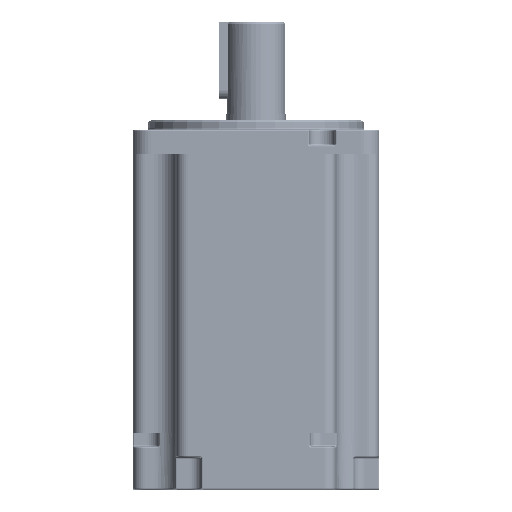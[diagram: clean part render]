
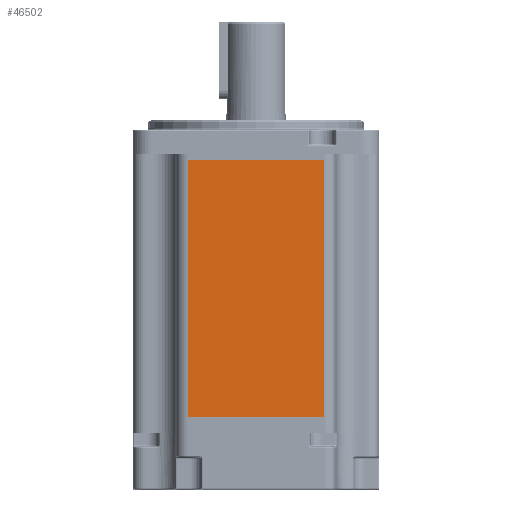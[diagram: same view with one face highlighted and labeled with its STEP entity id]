
A CAD part, top view. The second image highlights one B-rep face of the part: STEP entity #46502.
In plain terms, the highlighted planar face has unit normal (0, 0, 1) as drawn and (-1, 0, 0) by its records, which use the part's own axes.
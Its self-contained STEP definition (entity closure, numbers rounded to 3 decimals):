
#6077 = VECTOR ( 'NONE', #136440, 1000. ) ;
#9889 = VERTEX_POINT ( 'NONE', #244252 ) ;
#10676 = CARTESIAN_POINT ( 'NONE',  ( -40., -22., 83.5 ) ) ;
#30380 = CARTESIAN_POINT ( 'NONE',  ( -40., -22., 0. ) ) ;
#30900 = DIRECTION ( 'NONE',  ( 0., -1., 0. ) ) ;
#41155 = VERTEX_POINT ( 'NONE', #75169 ) ;
#44255 = PLANE ( 'NONE',  #66291 ) ;
#44686 = VECTOR ( 'NONE', #249802, 1000. ) ;
#46502 = ADVANCED_FACE ( 'NONE', ( #213406 ), #44255, .F. ) ;
#66291 = AXIS2_PLACEMENT_3D ( 'NONE', #149013, #108032, #84336 ) ;
#67580 = CARTESIAN_POINT ( 'NONE',  ( -40., 22., 83.5 ) ) ;
#68435 = ORIENTED_EDGE ( 'NONE', *, *, #157233, .F. ) ;
#68923 = EDGE_CURVE ( 'NONE', #190421, #41155, #227805, .T. ) ;
#70460 = LINE ( 'NONE', #67580, #106348 ) ;
#70690 = VECTOR ( 'NONE', #30900, 1000. ) ;
#75169 = CARTESIAN_POINT ( 'NONE',  ( -40., -22., 83.5 ) ) ;
#84336 = DIRECTION ( 'NONE',  ( 0., 0., -1. ) ) ;
#106348 = VECTOR ( 'NONE', #192370, 1000. ) ;
#108032 = DIRECTION ( 'NONE',  ( 1., 0., 0. ) ) ;
#113403 = VERTEX_POINT ( 'NONE', #30380 ) ;
#118670 = ORIENTED_EDGE ( 'NONE', *, *, #244144, .T. ) ;
#134845 = CARTESIAN_POINT ( 'NONE',  ( -40., -22., 0. ) ) ;
#136440 = DIRECTION ( 'NONE',  ( 0., -1., 0. ) ) ;
#149013 = CARTESIAN_POINT ( 'NONE',  ( -40., -22., 83.5 ) ) ;
#157233 = EDGE_CURVE ( 'NONE', #41155, #113403, #227079, .T. ) ;
#162152 = CARTESIAN_POINT ( 'NONE',  ( -40., 22., 83.5 ) ) ;
#176680 = EDGE_CURVE ( 'NONE', #9889, #113403, #197691, .T. ) ;
#190421 = VERTEX_POINT ( 'NONE', #162152 ) ;
#192370 = DIRECTION ( 'NONE',  ( 0., 0., -1. ) ) ;
#195583 = ORIENTED_EDGE ( 'NONE', *, *, #176680, .T. ) ;
#197691 = LINE ( 'NONE', #134845, #70690 ) ;
#208962 = EDGE_LOOP ( 'NONE', ( #195583, #68435, #241334, #118670 ) ) ;
#213406 = FACE_OUTER_BOUND ( 'NONE', #208962, .T. ) ;
#227079 = LINE ( 'NONE', #228872, #44686 ) ;
#227805 = LINE ( 'NONE', #10676, #6077 ) ;
#228872 = CARTESIAN_POINT ( 'NONE',  ( -40., -22., 83.5 ) ) ;
#241334 = ORIENTED_EDGE ( 'NONE', *, *, #68923, .F. ) ;
#244144 = EDGE_CURVE ( 'NONE', #190421, #9889, #70460, .T. ) ;
#244252 = CARTESIAN_POINT ( 'NONE',  ( -40., 22., 0. ) ) ;
#249802 = DIRECTION ( 'NONE',  ( 0., 0., -1. ) ) ;
